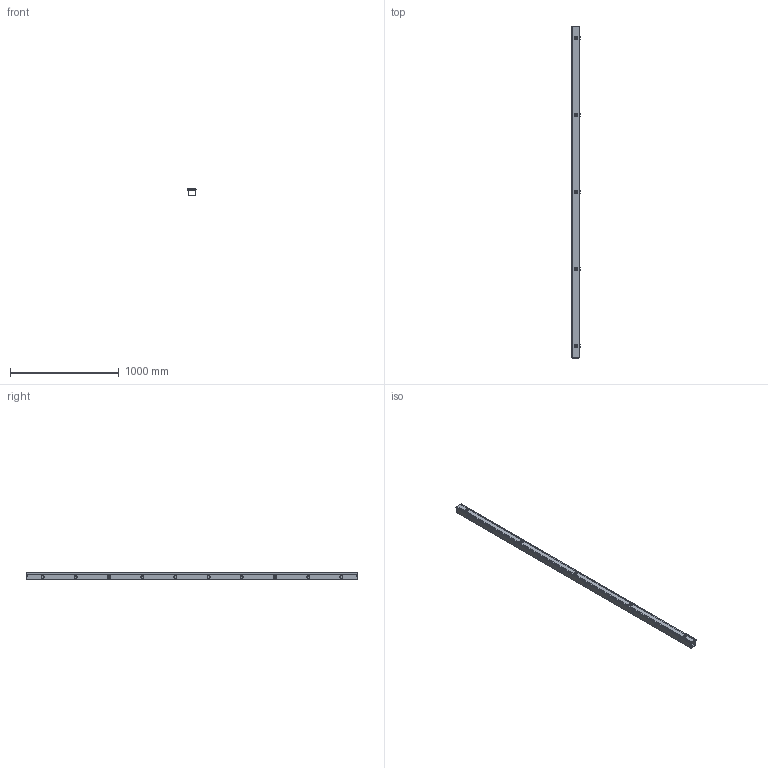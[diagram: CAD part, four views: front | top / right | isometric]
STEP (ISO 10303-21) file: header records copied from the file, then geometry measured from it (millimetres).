
FILE_DESCRIPTION(/* description */ ('1100SS 120" x 2.5" x 2.5" Assembly'),/* implementation_level */ '2;1');
FILE_NAME(/* name */ '1100SS2120.stp',/* time_stamp */ '2024-08-06T23:05:56-04:00',/* author */ ('BoxCad'),/* organization */ (''),/* preprocessor_version */ 'ST-DEVELOPER v20',/* originating_system */ 'Autodesk Inventor 2024',/* authorisation */ '');
FILE_SCHEMA (('AUTOMOTIVE_DESIGN { 1 0 10303 214 3 1 1 }'));
Products named in the file (14): 1100SS2120; 1100SS2120B; 1100SS2120B-P; 1100SS2120C; 1100SS2120C-P; STK-P-02400S; STK-Q-33361; STK-A-880SCQ1-SL-1; STK-A-880SCQ1-SL-2; STK-A-880SCQ1-SL-3; STK-A-880SCQ1-SL-4; STK-A-880SCQ1-SL-5; STK-Q-78631; STK-Q-78644
Assembly tree (26 placements, depth 4):
  1100SS2120
    1100SS2120B
      1100SS2120B-P
      STK-P-02400S
    1100SS2120C
      1100SS2120C-P
      STK-P-02400S
      STK-Q-33361  x5
      STK-A-880SCQ1-SL-1
        STK-Q-78631
        STK-Q-78644
      STK-A-880SCQ1-SL-2
        STK-Q-78631
        STK-Q-78644
      STK-A-880SCQ1-SL-3
        STK-Q-78631
        STK-Q-78644
      STK-A-880SCQ1-SL-4
        STK-Q-78631
        STK-Q-78644
      STK-A-880SCQ1-SL-5
        STK-Q-78631
        STK-Q-78644
Bounding box: 73.81 x 3048 x 69.5 mm (x, y, z)
Volume: 1310181.2 mm3; surface area: 1887068.6 mm2
Topology: 17 solids, 17 shells, 8482 faces, 21727 edges, 13139 vertices
Faces by surface type: plane 3215, cylinder 2277, bspline 2065, torus 530, sphere 395
Full cylindrical faces by diameter (mm): 0.762 x5, 7.137 x12, 30 x5
Entity records: 73870 total; most frequent: CARTESIAN_POINT 20647, ORIENTED_EDGE 11440, DIRECTION 10201, EDGE_CURVE 5720, VERTEX_POINT 3583, AXIS2_PLACEMENT_3D 3413, LINE 3375, VECTOR 3375
